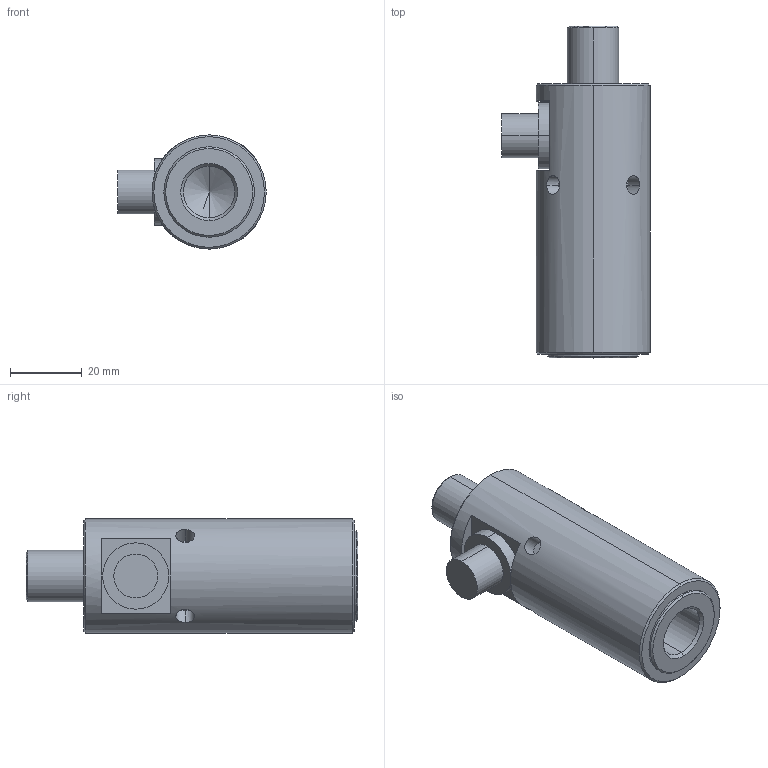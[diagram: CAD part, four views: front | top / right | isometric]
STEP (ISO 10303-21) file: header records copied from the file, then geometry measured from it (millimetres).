
FILE_DESCRIPTION (( 'STEP AP214' ), '1' );
FILE_NAME ('SS1396-20KN.STEP', '2024-08-29T17:14:25', ( '' ), ( '' ), 'SwSTEP 2.0', 'SolidWorks 2008', '' );
FILE_SCHEMA (( 'AUTOMOTIVE_DESIGN' ));
Length unit declared in the file: inch
Products named in the file (1): SS1396-20KN
Bounding box: 41.27 x 92.2 x 31.75 mm (x, y, z)
Volume: 56958.1 mm3; surface area: 12405.3 mm2
Topology: 1 solids, 1 shells, 45 faces, 90 edges, 55 vertices
Faces by surface type: cylinder 20, plane 13, cone 12
Entity records: 1417 total; most frequent: CARTESIAN_POINT 437, DIRECTION 216, ORIENTED_EDGE 176, AXIS2_PLACEMENT_3D 90, EDGE_CURVE 88, VERTEX_POINT 55, EDGE_LOOP 55, ADVANCED_FACE 45
